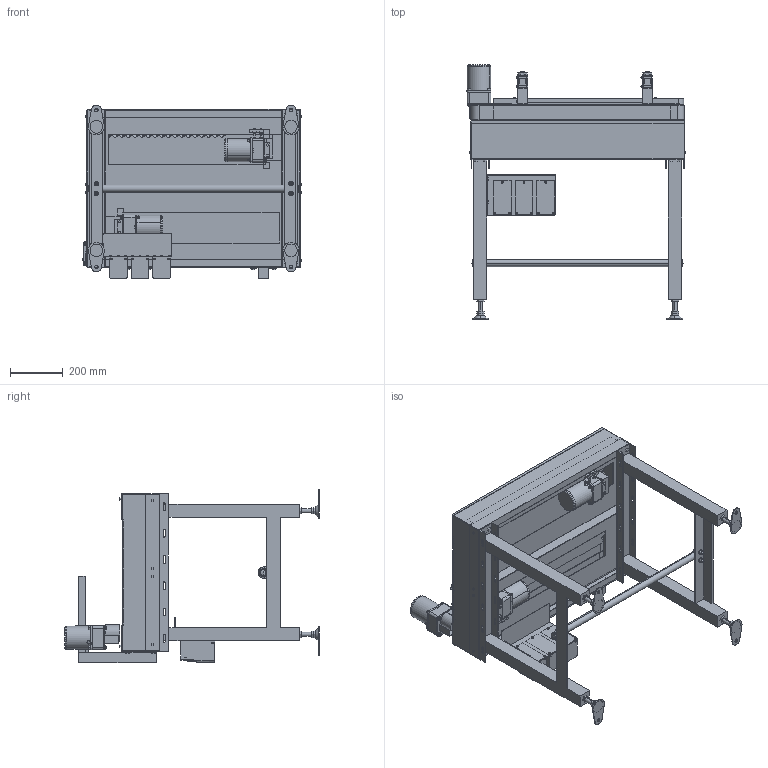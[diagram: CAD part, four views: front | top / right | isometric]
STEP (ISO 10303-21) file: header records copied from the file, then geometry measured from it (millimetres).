
FILE_DESCRIPTION( (''), '2;1');
FILE_NAME ('SGA-304x3-400-R-IVH-15-A.stp','2025-01-31T09:21:36',(''),(''),'spGate 20.6.2 (****-****-****-****)','','');
FILE_SCHEMA (('AUTOMOTIVE_DESIGN'));
Length unit declared in the file: millimetre
Products named in the file (91): NewModel; TEMP_X_T-prt0; TEMP_X_T-prt1; TEMP_X_T-prt2; TEMP_X_T-prt3; TEMP_X_T-prt4; TEMP_X_T-prt5; TEMP_X_T-prt6; TEMP_X_T-prt7; TEMP_X_T-prt8; TEMP_X_T-prt9; TEMP_X_T-prt10; TEMP_X_T-prt11; TEMP_X_T-prt12; TEMP_X_T-prt13; TEMP_X_T-prt14; TEMP_X_T-prt15; TEMP_X_T-prt16; TEMP_X_T-prt17; TEMP_X_T-prt18; TEMP_X_T-prt19; TEMP_X_T-prt20; TEMP_X_T-prt21; TEMP_X_T-prt22; TEMP_X_T-prt23; TEMP_X_T-prt24; TEMP_X_T-prt25; TEMP_X_T-prt26; TEMP_X_T-prt27; TEMP_X_T-prt28; TEMP_X_T-prt29; TEMP_X_T-prt30; TEMP_X_T-prt31; TEMP_X_T-prt32; TEMP_X_T-prt33; TEMP_X_T-prt34; TEMP_X_T-prt35; TEMP_X_T-prt36; TEMP_X_T-prt37; TEMP_X_T-prt38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
Assembly tree (90 placements, depth 2):
  NewModel
    TEMP_X_T-prt0
    TEMP_X_T-prt1
    TEMP_X_T-prt2
    TEMP_X_T-prt3
    TEMP_X_T-prt4
    TEMP_X_T-prt5
    TEMP_X_T-prt6
    TEMP_X_T-prt7
    TEMP_X_T-prt8
    TEMP_X_T-prt9
    TEMP_X_T-prt10
    TEMP_X_T-prt11
    TEMP_X_T-prt12
    TEMP_X_T-prt13
    TEMP_X_T-prt14
    TEMP_X_T-prt15
    TEMP_X_T-prt16
    TEMP_X_T-prt17
    TEMP_X_T-prt18
    TEMP_X_T-prt19
    TEMP_X_T-prt20
    TEMP_X_T-prt21
    TEMP_X_T-prt22
    TEMP_X_T-prt23
    TEMP_X_T-prt24
    TEMP_X_T-prt25
    TEMP_X_T-prt26
    TEMP_X_T-prt27
    TEMP_X_T-prt28
    TEMP_X_T-prt29
    TEMP_X_T-prt30
    TEMP_X_T-prt31
    TEMP_X_T-prt32
    TEMP_X_T-prt33
    TEMP_X_T-prt34
    TEMP_X_T-prt35
    TEMP_X_T-prt36
    TEMP_X_T-prt37
    TEMP_X_T-prt38
    TEMP_X_T-prt39
    TEMP_X_T-prt40
    TEMP_X_T-prt41
    TEMP_X_T-prt42
    TEMP_X_T-prt43
    TEMP_X_T-prt44
    TEMP_X_T-prt45
    TEMP_X_T-prt46
    TEMP_X_T-prt47
    TEMP_X_T-prt48
    TEMP_X_T-prt49
    TEMP_X_T-prt50
    TEMP_X_T-prt51
    TEMP_X_T-prt52
    TEMP_X_T-prt53
    TEMP_X_T-prt54
    TEMP_X_T-prt55
    TEMP_X_T-prt56
    TEMP_X_T-prt57
    TEMP_X_T-prt58
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Bounding box: 834.17 x 969.4 x 660 mm (x, y, z)
Volume: 24320664.2 mm3; surface area: 5437638.3 mm2
Topology: 90 solids, 90 shells, 3255 faces, 8046 edges, 5144 vertices
Faces by surface type: plane 2146, cylinder 750, bspline 343, sphere 16
Entity records: 167026 total; most frequent: CARTESIAN_POINT 24050, ORIENTED_EDGE 16004, DIRECTION 15041, COLOUR_RGB 11347, PRESENTATION_STYLE_ASSIGNMENT 11347, STYLED_ITEM 11347, EDGE_CURVE 8002, DRAUGHTING_PRE_DEFINED_CURVE_FONT 8002
